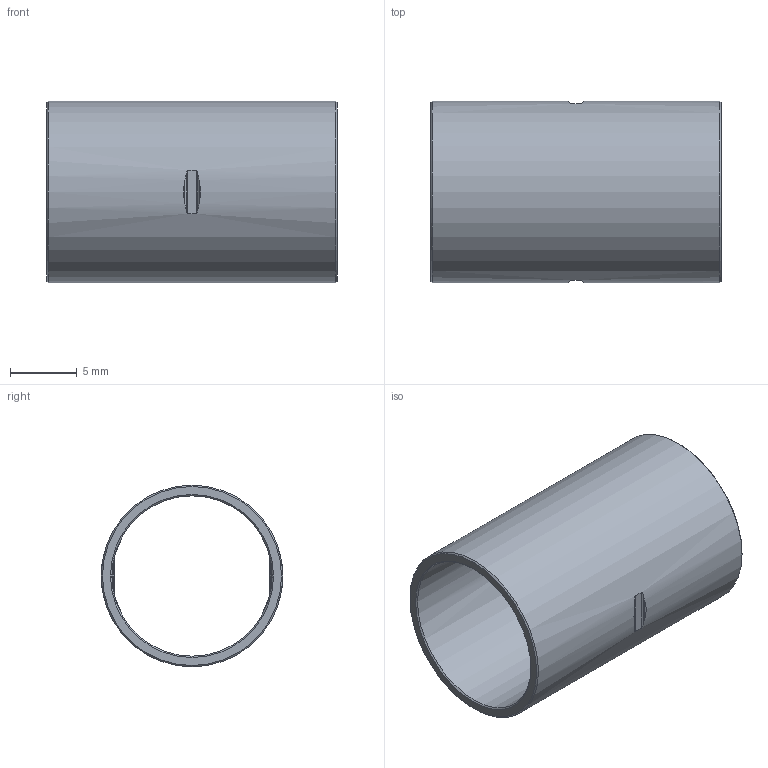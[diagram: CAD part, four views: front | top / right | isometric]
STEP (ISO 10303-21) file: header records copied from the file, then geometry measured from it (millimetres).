
FILE_DESCRIPTION((''),'2;1');
FILE_NAME('G:\SANHA-TERNAT\Technik\Management\Bouwmaten\z-maattekeningen 3D\imate 5000s\15270..._\1527012.stp','2009-10-19T09:09:58',('vdvijverd'),(''),'Autodesk Inventor 2009','Autodesk Inventor 2009','');
FILE_SCHEMA(('AUTOMOTIVE_DESIGN { 1 0 10303 214 1 1 1 1 }'));
Length unit declared in the file: millimetre
Products named in the file (1): 1527012
Bounding box: 21.75 x 13.6 x 13.6 mm (x, y, z)
Volume: 699.2 mm3; surface area: 1805.1 mm2
Topology: 1 solids, 1 shells, 36 faces, 96 edges, 64 vertices
Faces by surface type: bspline 14, cylinder 10, plane 8, cone 4
Full cylindrical faces by diameter (mm): 12 x1, 13.6 x1
Entity records: 1334 total; most frequent: CARTESIAN_POINT 523, ORIENTED_EDGE 176, DIRECTION 126, EDGE_CURVE 88, VERTEX_POINT 64, EDGE_LOOP 48, AXIS2_PLACEMENT_3D 47, FACE_OUTER_BOUND 36
